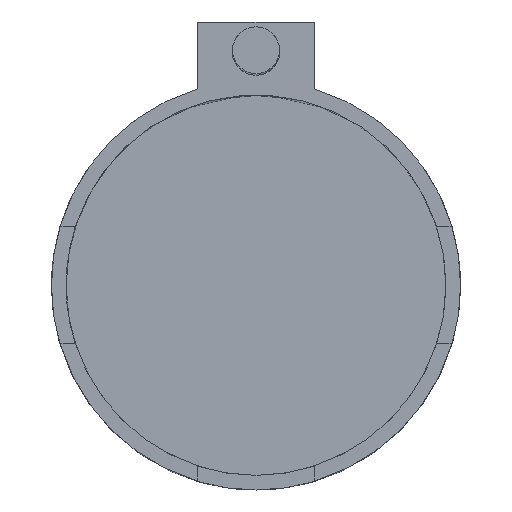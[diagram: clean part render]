
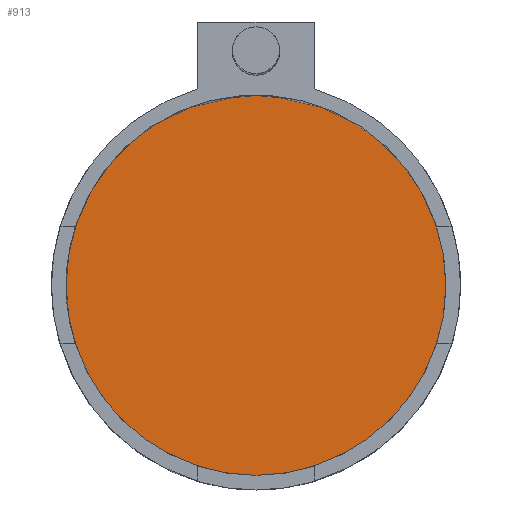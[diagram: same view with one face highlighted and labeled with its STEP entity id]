
A CAD part, top view. The second image highlights one B-rep face of the part: STEP entity #913.
In plain terms, the highlighted planar face has unit normal (0, 0, 1).
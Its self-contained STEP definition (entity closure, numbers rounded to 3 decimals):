
#65=CIRCLE('',#979,32.5);
#121=FACE_OUTER_BOUND('',#177,.T.);
#177=EDGE_LOOP('',(#799));
#424=VERTEX_POINT('',#1535);
#535=EDGE_CURVE('',#424,#424,#65,.T.);
#799=ORIENTED_EDGE('',*,*,#535,.T.);
#867=PLANE('',#1006);
#913=ADVANCED_FACE('',(#121),#867,.T.);
#979=AXIS2_PLACEMENT_3D('',#1537,#1163,#1164);
#1006=AXIS2_PLACEMENT_3D('',#1611,#1240,#1241);
#1163=DIRECTION('center_axis',(0.,0.,1.));
#1164=DIRECTION('ref_axis',(1.,0.,0.));
#1240=DIRECTION('center_axis',(0.,0.,1.));
#1241=DIRECTION('ref_axis',(1.,0.,0.));
#1535=CARTESIAN_POINT('',(-32.5,0.,0.));
#1537=CARTESIAN_POINT('Origin',(0.,0.,0.));
#1611=CARTESIAN_POINT('Origin',(0.,0.,0.));
